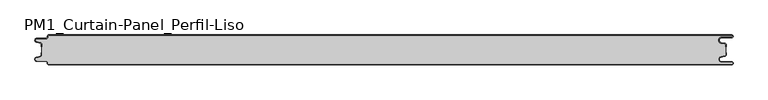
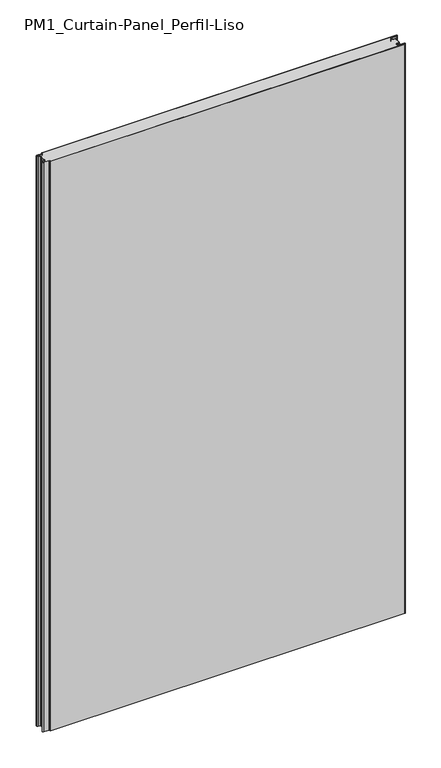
"""IFC4 building model written with IfcOpenShell, lengths in millimetres: plate geometry, PM1_Curtain-Panel_Perfil-Liso : ACH_PM1_Panel-Acústico-Sectorización_50M."""

from ifc_helpers import new_model, si_unit, point, frame, frame_2d, origin, origin_with_axes, place, context, project, spatial, polyline, circle_curve, trimmed, segment, composite_curve, outline, extrude, source, transform, mapped, element, save
from ifc_brep_helpers import plane_surface, cylinder_surface, revolved_surface, advanced_brep


def pm1_curtain_panel_perfil_liso_4c73c2bf(model_context):
    return source(origin(), model_context, "Body", "SolidModel", [
        advanced_brep(
        [(583.1, 0.0, 1945.7507136), (-562.4, 0.0, 1945.7507136), (-564.4, -2.0, 1945.7507136), (-564.4, -3.4, 1945.7507136), (-566.4, -5.4, 1945.7507136), (-581.9, -5.4, 1945.7507136), (-582.7098239, -12.5077322, 1945.7507136), (-576.5500979, -13.929817, 1945.7507136), (-575.0, -15.878557, 1945.7507136), (-575.0, -20.0, 1945.7507136), (-574.2, -20.0, 1945.7507136), (-574.2, -15.878557, 1945.7507136), (-576.370137, -13.1503208, 1945.7507136), (-582.529863, -11.728236, 1945.7507136), (-581.9, -6.2, 1945.7507136), (-566.4, -6.2, 1945.7507136), (-563.6, -3.4, 1945.7507136), (-563.6, -2.0, 1945.7507136), (-562.4, -0.8, 1945.7507136), (583.1, -0.8, 1945.7507136), (583.1, -4.2, 1945.7507136), (566.1, -4.2, 1945.7507136), (565.266489, -13.7270773, 1945.7507136), (571.7125666, -14.8636942, 1945.7507136), (573.2, -16.636348, 1945.7507136), (573.2, -20.0, 1945.7507136), (574.0, -20.0, 1945.7507136), (574.0, -16.636348, 1945.7507136), (571.8514851, -14.0758478, 1945.7507136), (565.4054075, -12.9392309, 1945.7507136), (566.1, -5.0, 1945.7507136), (583.1, -5.0, 1945.7507136), (585.6, -2.5, 1945.7507136), (-562.4, 0.0, 0.0), (583.1, 0.0, 0.0), (585.6, -2.5, 0.0), (583.1, -5.0, 0.0), (566.1, -5.0, 0.0), (565.4054075, -12.939231, 0.0), (571.8514851, -14.075848, 0.0), (574.0, -16.636348, 0.0), (574.0, -20.0, 0.0), (573.2, -20.0, 0.0), (573.2, -16.636348, 0.0), (571.7125666, -14.863694, 0.0), (565.266489, -13.7270771, 0.0), (566.1, -4.2, 0.0), (583.1, -4.2, 0.0), (583.1, -0.8, 0.0), (-562.4, -0.8, 0.0), (-563.6, -2.0, 0.0), (-563.6, -3.4, 0.0), (-566.4, -6.2, 0.0), (-581.9, -6.2, 0.0), (-582.529863, -11.7282362, 0.0), (-576.370137, -13.150321, 0.0), (-574.2, -15.878557, 0.0), (-574.2, -20.0, 0.0), (-575.0, -20.0, 0.0), (-575.0, -15.878557, 0.0), (-576.5500978, -13.9298169, 0.0), (-582.7098239, -12.507732, 0.0), (-581.9, -5.4, 0.0), (-566.4, -5.4, 0.0), (-564.4, -3.4, 0.0), (-564.4, -2.0, 0.0)],
        [
            (0, 1),
            (1, 2, circle_curve(frame((-562.4, -2.0, 1945.7507136), z_axis=(0.0, 0.0, 1.0), x_axis=(1.0, 0.0, 0.0)), 2.0)),
            (2, 3),
            (3, 4, circle_curve(frame((-566.4, -3.4, 1945.7507136), z_axis=(0.0, 0.0, -1.0), x_axis=(1.0, 0.0, 0.0)), 2.0)),
            (4, 5),
            (5, 6, circle_curve(frame((-581.9, -9.0, 1945.7507136), z_axis=(0.0, 0.0, 1.0), x_axis=(1.0, 0.0, 0.0)), 3.6)),
            (6, 7),
            (7, 8, circle_curve(frame((-577.0, -15.878557, 1945.7507136), z_axis=(0.0, 0.0, -1.0), x_axis=(1.0, 0.0, 0.0)), 2.0)),
            (8, 9),
            (9, 10),
            (10, 11),
            (11, 12, circle_curve(frame((-577.0, -15.878557, 1945.7507136), z_axis=(0.0, 0.0, 1.0), x_axis=(1.0, 0.0, 0.0)), 2.8)),
            (12, 13),
            (13, 14, circle_curve(frame((-581.9, -9.0, 1945.7507136), z_axis=(0.0, 0.0, -1.0), x_axis=(1.0, 0.0, 0.0)), 2.8)),
            (14, 15),
            (15, 16, circle_curve(frame((-566.4, -3.4, 1945.7507136), z_axis=(0.0, 0.0, 1.0), x_axis=(1.0, 0.0, 0.0)), 2.8)),
            (16, 17),
            (17, 18, circle_curve(frame((-562.4, -2.0, 1945.7507136), z_axis=(0.0, 0.0, -1.0), x_axis=(1.0, 0.0, 0.0)), 1.2)),
            (18, 19),
            (19, 20, circle_curve(frame((583.1, -2.5, 1945.7507136), z_axis=(0.0, 0.0, -1.0), x_axis=(1.0, 0.0, 0.0)), 1.7)),
            (20, 21),
            (21, 22, circle_curve(frame((566.1, -9.0, 1945.7507136), z_axis=(0.0, 0.0, 1.0), x_axis=(1.0, 0.0, 0.0)), 4.8)),
            (22, 23),
            (23, 24, circle_curve(frame((571.4, -16.636348, 1945.7507136), z_axis=(0.0, 0.0, -1.0), x_axis=(1.0, 0.0, 0.0)), 1.8)),
            (24, 25),
            (25, 26),
            (26, 27),
            (27, 28, circle_curve(frame((571.4, -16.636348, 1945.7507136), z_axis=(0.0, 0.0, 1.0), x_axis=(1.0, 0.0, 0.0)), 2.6)),
            (28, 29),
            (29, 30, circle_curve(frame((566.1, -9.0, 1945.7507136), z_axis=(0.0, 0.0, -1.0), x_axis=(1.0, 0.0, 0.0)), 4.0)),
            (30, 31),
            (31, 32, circle_curve(frame((583.1, -2.5, 1945.7507136), z_axis=(0.0, 0.0, 1.0), x_axis=(1.0, 0.0, 0.0)), 2.5)),
            (32, 0, circle_curve(frame((583.1, -2.5, 1945.7507136), z_axis=(0.0, 0.0, 1.0), x_axis=(1.0, 0.0, 0.0)), 2.5)),
            (33, 34),
            (34, 35, circle_curve(frame((583.1, -2.5, 0.0), z_axis=(0.0, 0.0, -1.0), x_axis=(1.0, 0.0, 0.0)), 2.5)),
            (35, 36, circle_curve(frame((583.1, -2.5, 0.0), z_axis=(0.0, 0.0, -1.0), x_axis=(1.0, 0.0, 0.0)), 2.5)),
            (36, 37),
            (37, 38, circle_curve(frame((566.1, -9.0, 0.0), z_axis=(0.0, 0.0, 1.0), x_axis=(1.0, 0.0, 0.0)), 4.0)),
            (38, 39),
            (39, 40, circle_curve(frame((571.4, -16.636348, 0.0), z_axis=(0.0, 0.0, -1.0), x_axis=(1.0, 0.0, 0.0)), 2.6)),
            (40, 41),
            (41, 42),
            (42, 43),
            (43, 44, circle_curve(frame((571.4, -16.636348, 0.0), z_axis=(0.0, 0.0, 1.0), x_axis=(1.0, 0.0, 0.0)), 1.8)),
            (44, 45),
            (45, 46, circle_curve(frame((566.1, -9.0, 0.0), z_axis=(0.0, 0.0, -1.0), x_axis=(1.0, 0.0, 0.0)), 4.8)),
            (46, 47),
            (47, 48, circle_curve(frame((583.1, -2.5, 0.0), z_axis=(0.0, 0.0, 1.0), x_axis=(1.0, 0.0, 0.0)), 1.7)),
            (48, 49),
            (49, 50, circle_curve(frame((-562.4, -2.0, 0.0), z_axis=(0.0, 0.0, 1.0), x_axis=(1.0, 0.0, 0.0)), 1.2)),
            (50, 51),
            (51, 52, circle_curve(frame((-566.4, -3.4, 0.0), z_axis=(0.0, 0.0, -1.0), x_axis=(1.0, 0.0, 0.0)), 2.8)),
            (52, 53),
            (53, 54, circle_curve(frame((-581.9, -9.0, 0.0), z_axis=(0.0, 0.0, 1.0), x_axis=(1.0, 0.0, 0.0)), 2.8)),
            (54, 55),
            (55, 56, circle_curve(frame((-577.0, -15.878557, 0.0), z_axis=(0.0, 0.0, -1.0), x_axis=(1.0, 0.0, 0.0)), 2.8)),
            (56, 57),
            (57, 58),
            (58, 59),
            (59, 60, circle_curve(frame((-577.0, -15.878557, 0.0), z_axis=(0.0, 0.0, 1.0), x_axis=(1.0, 0.0, 0.0)), 2.0)),
            (60, 61),
            (61, 62, circle_curve(frame((-581.9, -9.0, 0.0), z_axis=(0.0, 0.0, -1.0), x_axis=(1.0, 0.0, 0.0)), 3.6)),
            (62, 63),
            (63, 64, circle_curve(frame((-566.4, -3.4, 0.0), z_axis=(0.0, 0.0, 1.0), x_axis=(1.0, 0.0, 0.0)), 2.0)),
            (64, 65),
            (65, 33, circle_curve(frame((-562.4, -2.0, 0.0), z_axis=(0.0, 0.0, -1.0), x_axis=(1.0, 0.0, 0.0)), 2.0)),
            (1, 33),
            (65, 2),
            (64, 3),
            (63, 4),
            (62, 5),
            (61, 6),
            (60, 7),
            (59, 8),
            (58, 9),
            (57, 10),
            (56, 11),
            (55, 12),
            (54, 13),
            (53, 14),
            (52, 15),
            (51, 16),
            (50, 17),
            (49, 18),
            (48, 19),
            (47, 20),
            (46, 21),
            (45, 22),
            (44, 23),
            (43, 24),
            (42, 25),
            (41, 26),
            (40, 27),
            (39, 28),
            (38, 29),
            (37, 30),
            (36, 31),
            (34, 0),
        ],
        [
            plane_surface(frame((-575.0, 0.0, 1945.7507136), z_axis=(0.0, 0.0, 1.0), x_axis=(0.0, 1.0, 0.0))),
            plane_surface(frame((-575.0, 0.0, 0.0), z_axis=(0.0, 0.0, -1.0), x_axis=(0.0, 1.0, 0.0))),
            cylinder_surface(frame((-562.4, -2.0, 1945.7507136), z_axis=(0.0, 0.0, 1.0), x_axis=(1.0, 0.0, 0.0)), 2.0),
            plane_surface(frame((-564.4, -2.0, 1945.7507136), z_axis=(-1.0, 0.0, 0.0), x_axis=(0.0, 0.0, -1.0))),
            revolved_surface(polyline([(-564.4, -3.4, 0.0), (-564.4, -3.4, 1945.7507136)]), (-566.4, -3.4, 1945.7507136), (0.0, 0.0, -1.0)),
            plane_surface(frame((-566.4, -5.4, 1945.7507136), z_axis=(0.0, 1.0, 0.0), x_axis=(0.0, 0.0, -1.0))),
            cylinder_surface(frame((-581.9, -9.0, 1945.7507136), z_axis=(0.0, 0.0, 1.0), x_axis=(1.0, 0.0, 0.0)), 3.6),
            plane_surface(frame((-582.7098239, -12.507732, 1945.7507136), z_axis=(-0.2249510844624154, -0.9743700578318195, 0.0), x_axis=(0.0, 0.0, -1.0))),
            revolved_surface(polyline([(-575.0, -15.878557, 0.0), (-575.0, -15.878557, 1945.7507136)]), (-577.0, -15.878557, 1945.7507136), (0.0, 0.0, -1.0)),
            plane_surface(frame((-575.0, -15.878557, 1945.7507136), z_axis=(-1.0, 0.0, 0.0), x_axis=(0.0, 0.0, -1.0))),
            plane_surface(frame((-575.0, -20.0, 1945.7507136), z_axis=(0.0, -1.0, 0.0), x_axis=(0.0, 0.0, -1.0))),
            plane_surface(frame((-574.2, -20.0, 1945.7507136), z_axis=(1.0, 0.0, 0.0), x_axis=(0.0, 0.0, -1.0))),
            cylinder_surface(frame((-577.0, -15.878557, 1945.7507136), z_axis=(0.0, 0.0, 1.0), x_axis=(1.0, 0.0, 0.0)), 2.8),
            plane_surface(frame((-576.370137, -13.150321, 1945.7507136), z_axis=(0.22495108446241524, 0.9743700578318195, 0.0), x_axis=(0.0, 0.0, -1.0))),
            revolved_surface(polyline([(-579.1, -9.0, 0.0), (-579.1, -9.0, 1945.7507136)]), (-581.9, -9.0, 1945.7507136), (0.0, 0.0, -1.0)),
            plane_surface(frame((-581.9, -6.2, 1945.7507136), z_axis=(0.0, -1.0, 0.0), x_axis=(0.0, 0.0, -1.0))),
            cylinder_surface(frame((-566.4, -3.4, 1945.7507136), z_axis=(0.0, 0.0, 1.0), x_axis=(1.0, 0.0, 0.0)), 2.8),
            plane_surface(frame((-563.6, -3.4, 1945.7507136), z_axis=(1.0, 0.0, 0.0), x_axis=(0.0, 0.0, -1.0))),
            revolved_surface(polyline([(-561.1999999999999, -2.0, 0.0), (-561.1999999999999, -2.0, 1945.7507136)]), (-562.4, -2.0, 1945.7507136), (0.0, 0.0, -1.0)),
            plane_surface(frame((560.890897, -0.8, 1945.7507136), z_axis=(0.0, -1.0, 0.0), x_axis=(0.0, 0.0, -1.0))),
            revolved_surface(polyline([(584.8000000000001, -2.5, 0.0), (584.8000000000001, -2.5, 1945.7507136)]), (583.1, -2.5, 1945.7507136), (0.0, 0.0, -1.0)),
            plane_surface(frame((583.1, -4.2, 1945.7507136), z_axis=(0.0, 1.0, 0.0), x_axis=(0.0, 0.0, -1.0))),
            cylinder_surface(frame((566.1, -9.0, 1945.7507136), z_axis=(0.0, 0.0, 1.0), x_axis=(1.0, 0.0, 0.0)), 4.8),
            plane_surface(frame((565.266489, -13.7270771, 1945.7507136), z_axis=(-0.1736481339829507, -0.9848077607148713, 0.0), x_axis=(0.0, 0.0, -1.0))),
            revolved_surface(polyline([(573.1999999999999, -16.636348, 0.0), (573.1999999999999, -16.636348, 1945.7507136)]), (571.4, -16.636348, 1945.7507136), (0.0, 0.0, -1.0)),
            plane_surface(frame((573.2, -16.636348, 1945.7507136), z_axis=(-1.0, 0.0, 0.0), x_axis=(0.0, 0.0, -1.0))),
            plane_surface(frame((573.2, -20.0, 1945.7507136), z_axis=(0.0, -1.0, 0.0), x_axis=(0.0, 0.0, -1.0))),
            plane_surface(frame((574.0, -20.0, 1945.7507136), z_axis=(1.0, 0.0, 0.0), x_axis=(0.0, 0.0, -1.0))),
            cylinder_surface(frame((571.4, -16.636348, 1945.7507136), z_axis=(0.0, 0.0, 1.0), x_axis=(1.0, 0.0, 0.0)), 2.6),
            plane_surface(frame((571.8514851, -14.075848, 1945.7507136), z_axis=(0.17364813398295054, 0.9848077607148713, 0.0), x_axis=(0.0, 0.0, -1.0))),
            revolved_surface(polyline([(570.1, -9.0, 0.0), (570.1, -9.0, 1945.7507136)]), (566.1, -9.0, 1945.7507136), (0.0, 0.0, -1.0)),
            plane_surface(frame((566.1, -5.0, 1945.7507136), z_axis=(0.0, -1.0, 0.0), x_axis=(0.0, 0.0, -1.0))),
            cylinder_surface(frame((583.1, -2.5, 1945.7507136), z_axis=(0.0, 0.0, 1.0), x_axis=(1.0, 0.0, 0.0)), 2.5),
            plane_surface(frame((510.5961529, 0.0, 1945.7507136), z_axis=(0.0, 1.0, 0.0), x_axis=(0.0, 0.0, -1.0))),
        ],
        [
            (0, [[1, 2, 3, 4, 5, 6, 7, 8, 9, 10, 11, 12, 13, 14, 15, 16, 17, 18, 19, 20, 21, 22, 23, 24, 25, 26, 27, 28, 29, 30, 31, 32, 33]]),
            (1, [[34, 35, 36, 37, 38, 39, 40, 41, 42, 43, 44, 45, 46, 47, 48, 49, 50, 51, 52, 53, 54, 55, 56, 57, 58, 59, 60, 61, 62, 63, 64, 65, 66]]),
            (2, [[-2, 67, -66, 68]]),
            (3, [[-3, -68, -65, 69]]),
            (4, [[-4, -69, -64, 70]]),
            (5, [[-5, -70, -63, 71]]),
            (6, [[-6, -71, -62, 72]]),
            (7, [[-7, -72, -61, 73]]),
            (8, [[-8, -73, -60, 74]]),
            (9, [[-9, -74, -59, 75]]),
            (10, [[-10, -75, -58, 76]]),
            (11, [[-11, -76, -57, 77]]),
            (12, [[-12, -77, -56, 78]]),
            (13, [[-13, -78, -55, 79]]),
            (14, [[-14, -79, -54, 80]]),
            (15, [[-15, -80, -53, 81]]),
            (16, [[-16, -81, -52, 82]]),
            (17, [[-17, -82, -51, 83]]),
            (18, [[-18, -83, -50, 84]]),
            (19, [[-19, -84, -49, 85]]),
            (20, [[-20, -85, -48, 86]]),
            (21, [[-21, -86, -47, 87]]),
            (22, [[-22, -87, -46, 88]]),
            (23, [[-23, -88, -45, 89]]),
            (24, [[-24, -89, -44, 90]]),
            (25, [[-25, -90, -43, 91]]),
            (26, [[-26, -91, -42, 92]]),
            (27, [[-27, -92, -41, 93]]),
            (28, [[-28, -93, -40, 94]]),
            (29, [[-29, -94, -39, 95]]),
            (30, [[-30, -95, -38, 96]]),
            (31, [[-31, -96, -37, 97]]),
            (32, [[-97, -36, -35, 98, -33, -32]]),
            (33, [[-1, -98, -34, -67]]),
        ],
    ),
        extrude(outline(composite_curve([segment(polyline([(-574.2, -34.1214426), (-574.2, -15.8785573)]), True, "CONTINUOUS"), segment(trimmed(circle_curve(frame_2d((-577.0, -15.8785573)), 2.8), [point((-574.2, -15.8785573))], [point((-576.370137, -13.1503212))], True, "CARTESIAN"), True, "CONTINUOUS"), segment(polyline([(-576.370137, -13.1503212), (-582.5298631, -11.7282362)]), True, "CONTINUOUS"), segment(trimmed(circle_curve(frame_2d((-581.9, -9.0)), 2.8), [point((-582.5298631, -11.7282362))], [point((-581.9, -6.2))], False, "CARTESIAN"), True, "CONTINUOUS"), segment(polyline([(-581.9, -6.2), (-566.4000001, -6.2)]), True, "CONTINUOUS"), segment(trimmed(circle_curve(frame_2d((-566.4000001, -3.4)), 2.8), [point((-566.4000001, -6.2))], [point((-563.6000001, -3.4))], True, "CARTESIAN"), True, "CONTINUOUS"), segment(polyline([(-563.6000001, -3.4), (-563.6000001, -2.0)]), True, "CONTINUOUS"), segment(trimmed(circle_curve(frame_2d((-562.4000001, -2.0)), 1.2), [point((-563.6000001, -2.0))], [point((-562.4000001, -0.8))], False, "CARTESIAN"), True, "CONTINUOUS"), segment(polyline([(-562.4000001, -0.8), (583.1, -0.8)]), True, "CONTINUOUS"), segment(trimmed(circle_curve(frame_2d((583.1, -2.5)), 1.7), [point((583.1, -0.8))], [point((583.1, -4.2))], False, "CARTESIAN"), True, "CONTINUOUS"), segment(polyline([(583.1, -4.2), (566.1, -4.2)]), True, "CONTINUOUS"), segment(trimmed(circle_curve(frame_2d((566.1, -9.0)), 4.8), [point((566.1, -4.2))], [point((565.2664883, -13.7270771))], True, "CARTESIAN"), True, "CONTINUOUS"), segment(polyline([(565.2664883, -13.7270771), (571.7125668, -14.8636953)]), True, "CONTINUOUS"), segment(trimmed(circle_curve(frame_2d((571.4, -16.6363492)), 1.8), [point((571.7125668, -14.8636953))], [point((573.2, -16.6363492))], False, "CARTESIAN"), True, "CONTINUOUS"), segment(polyline([(573.2, -16.6363492), (573.2, -33.3636508)]), True, "CONTINUOUS"), segment(trimmed(circle_curve(frame_2d((571.4, -33.3636508)), 1.8), [point((573.2, -33.3636508))], [point((571.7125668, -35.1363047))], False, "CARTESIAN"), True, "CONTINUOUS"), segment(polyline([(571.7125668, -35.1363047), (565.2664883, -36.2729229)]), True, "CONTINUOUS"), segment(trimmed(circle_curve(frame_2d((566.1, -41.0)), 4.8), [point((565.2664883, -36.2729229))], [point((566.1, -45.8))], True, "CARTESIAN"), True, "CONTINUOUS"), segment(polyline([(566.1, -45.8), (583.1, -45.8)]), True, "CONTINUOUS"), segment(trimmed(circle_curve(frame_2d((583.1, -47.5)), 1.7), [point((583.1, -45.8))], [point((583.1, -49.2))], False, "CARTESIAN"), True, "CONTINUOUS"), segment(polyline([(583.1, -49.2), (-562.4000001, -49.2)]), True, "CONTINUOUS"), segment(trimmed(circle_curve(frame_2d((-562.4000001, -48.0)), 1.2), [point((-562.4000001, -49.2))], [point((-563.6000001, -48.0))], False, "CARTESIAN"), True, "CONTINUOUS"), segment(polyline([(-563.6000001, -48.0), (-563.6000001, -46.6)]), True, "CONTINUOUS"), segment(trimmed(circle_curve(frame_2d((-566.4000001, -46.6)), 2.8), [point((-563.6000001, -46.6))], [point((-566.4000001, -43.8))], True, "CARTESIAN"), True, "CONTINUOUS"), segment(polyline([(-566.4000001, -43.8), (-581.9, -43.8)]), True, "CONTINUOUS"), segment(trimmed(circle_curve(frame_2d((-581.9, -41.0)), 2.8), [point((-581.9, -43.8))], [point((-582.5298631, -38.2717638))], False, "CARTESIAN"), True, "CONTINUOUS"), segment(polyline([(-582.5298631, -38.2717638), (-576.370137, -36.8496788)]), True, "CONTINUOUS"), segment(trimmed(circle_curve(frame_2d((-577.0, -34.1214426)), 2.8), [point((-576.370137, -36.8496788))], [point((-574.2, -34.1214426))], True, "CARTESIAN"), True, "CONTINUOUS")], self_intersect=False)), origin_with_axes(), (0.0, 0.0, 1.0), 1945.7507136),
        advanced_brep(
        [(-562.4, -50.0, 1945.7507136), (583.1, -50.0, 1945.7507136), (585.6, -47.5, 1945.7507136), (583.1, -45.0, 1945.7507136), (566.1, -45.0, 1945.7507136), (565.4054075, -37.060769, 1945.7507136), (571.8514851, -35.924152, 1945.7507136), (574.0, -33.363652, 1945.7507136), (574.0, -30.0, 1945.7507136), (573.2, -30.0, 1945.7507136), (573.2, -33.363652, 1945.7507136), (571.7125666, -35.136306, 1945.7507136), (565.266489, -36.2729229, 1945.7507136), (566.1, -45.8, 1945.7507136), (583.1, -45.8, 1945.7507136), (583.1, -49.2, 1945.7507136), (-562.4, -49.2, 1945.7507136), (-563.6, -48.0, 1945.7507136), (-563.6, -46.6, 1945.7507136), (-566.4, -43.8, 1945.7507136), (-581.9, -43.8, 1945.7507136), (-582.529863, -38.2717638, 1945.7507136), (-576.370137, -36.849679, 1945.7507136), (-574.2, -34.121443, 1945.7507136), (-574.2, -30.0, 1945.7507136), (-575.0, -30.0, 1945.7507136), (-575.0, -34.121443, 1945.7507136), (-576.5500978, -36.0701831, 1945.7507136), (-582.7098239, -37.492268, 1945.7507136), (-581.9, -44.6, 1945.7507136), (-566.4, -44.6, 1945.7507136), (-564.4, -46.6, 1945.7507136), (-564.4, -48.0, 1945.7507136), (583.1, -50.0, 0.0), (-562.4, -50.0, 0.0), (-564.4, -48.0, 0.0), (-564.4, -46.6, 0.0), (-566.4, -44.6, 0.0), (-581.9, -44.6, 0.0), (-582.7098239, -37.4922678, 0.0), (-576.5500979, -36.070183, 0.0), (-575.0, -34.121443, 0.0), (-575.0, -30.0, 0.0), (-574.2, -30.0, 0.0), (-574.2, -34.121443, 0.0), (-576.370137, -36.8496792, 0.0), (-582.529863, -38.271764, 0.0), (-581.9, -43.8, 0.0), (-566.4, -43.8, 0.0), (-563.6, -46.6, 0.0), (-563.6, -48.0, 0.0), (-562.4, -49.2, 0.0), (583.1, -49.2, 0.0), (583.1, -45.8, 0.0), (566.1, -45.8, 0.0), (565.266489, -36.2729227, 0.0), (571.7125666, -35.1363058, 0.0), (573.2, -33.363652, 0.0), (573.2, -30.0, 0.0), (574.0, -30.0, 0.0), (574.0, -33.363652, 0.0), (571.8514851, -35.9241522, 0.0), (565.4054075, -37.0607691, 0.0), (566.1, -45.0, 0.0), (583.1, -45.0, 0.0), (585.6, -47.5, 0.0)],
        [
            (0, 1),
            (1, 2, circle_curve(frame((583.1, -47.5, 1945.7507136), z_axis=(0.0, 0.0, 1.0), x_axis=(1.0, 0.0, 0.0)), 2.5)),
            (2, 3, circle_curve(frame((583.1, -47.5, 1945.7507136), z_axis=(0.0, 0.0, 1.0), x_axis=(1.0, 0.0, 0.0)), 2.5)),
            (3, 4),
            (4, 5, circle_curve(frame((566.1, -41.0, 1945.7507136), z_axis=(0.0, 0.0, -1.0), x_axis=(1.0, 0.0, 0.0)), 4.0)),
            (5, 6),
            (6, 7, circle_curve(frame((571.4, -33.363652, 1945.7507136), z_axis=(0.0, 0.0, 1.0), x_axis=(1.0, 0.0, 0.0)), 2.6)),
            (7, 8),
            (8, 9),
            (9, 10),
            (10, 11, circle_curve(frame((571.4, -33.363652, 1945.7507136), z_axis=(0.0, 0.0, -1.0), x_axis=(1.0, 0.0, 0.0)), 1.8)),
            (11, 12),
            (12, 13, circle_curve(frame((566.1, -41.0, 1945.7507136), z_axis=(0.0, 0.0, 1.0), x_axis=(1.0, 0.0, 0.0)), 4.8)),
            (13, 14),
            (14, 15, circle_curve(frame((583.1, -47.5, 1945.7507136), z_axis=(0.0, 0.0, -1.0), x_axis=(1.0, 0.0, 0.0)), 1.7)),
            (15, 16),
            (16, 17, circle_curve(frame((-562.4, -48.0, 1945.7507136), z_axis=(0.0, 0.0, -1.0), x_axis=(1.0, 0.0, 0.0)), 1.2)),
            (17, 18),
            (18, 19, circle_curve(frame((-566.4, -46.6, 1945.7507136), z_axis=(0.0, 0.0, 1.0), x_axis=(1.0, 0.0, 0.0)), 2.8)),
            (19, 20),
            (20, 21, circle_curve(frame((-581.9, -41.0, 1945.7507136), z_axis=(0.0, 0.0, -1.0), x_axis=(1.0, 0.0, 0.0)), 2.8)),
            (21, 22),
            (22, 23, circle_curve(frame((-577.0, -34.121443, 1945.7507136), z_axis=(0.0, 0.0, 1.0), x_axis=(1.0, 0.0, 0.0)), 2.8)),
            (23, 24),
            (24, 25),
            (25, 26),
            (26, 27, circle_curve(frame((-577.0, -34.121443, 1945.7507136), z_axis=(0.0, 0.0, -1.0), x_axis=(1.0, 0.0, 0.0)), 2.0)),
            (27, 28),
            (28, 29, circle_curve(frame((-581.9, -41.0, 1945.7507136), z_axis=(0.0, 0.0, 1.0), x_axis=(1.0, 0.0, 0.0)), 3.6)),
            (29, 30),
            (30, 31, circle_curve(frame((-566.4, -46.6, 1945.7507136), z_axis=(0.0, 0.0, -1.0), x_axis=(1.0, 0.0, 0.0)), 2.0)),
            (31, 32),
            (32, 0, circle_curve(frame((-562.4, -48.0, 1945.7507136), z_axis=(0.0, 0.0, 1.0), x_axis=(1.0, 0.0, 0.0)), 2.0)),
            (33, 34),
            (34, 35, circle_curve(frame((-562.4, -48.0, 0.0), z_axis=(0.0, 0.0, -1.0), x_axis=(1.0, 0.0, 0.0)), 2.0)),
            (35, 36),
            (36, 37, circle_curve(frame((-566.4, -46.6, 0.0), z_axis=(0.0, 0.0, 1.0), x_axis=(1.0, 0.0, 0.0)), 2.0)),
            (37, 38),
            (38, 39, circle_curve(frame((-581.9, -41.0, 0.0), z_axis=(0.0, 0.0, -1.0), x_axis=(1.0, 0.0, 0.0)), 3.6)),
            (39, 40),
            (40, 41, circle_curve(frame((-577.0, -34.121443, 0.0), z_axis=(0.0, 0.0, 1.0), x_axis=(1.0, 0.0, 0.0)), 2.0)),
            (41, 42),
            (42, 43),
            (43, 44),
            (44, 45, circle_curve(frame((-577.0, -34.121443, 0.0), z_axis=(0.0, 0.0, -1.0), x_axis=(1.0, 0.0, 0.0)), 2.8)),
            (45, 46),
            (46, 47, circle_curve(frame((-581.9, -41.0, 0.0), z_axis=(0.0, 0.0, 1.0), x_axis=(1.0, 0.0, 0.0)), 2.8)),
            (47, 48),
            (48, 49, circle_curve(frame((-566.4, -46.6, 0.0), z_axis=(0.0, 0.0, -1.0), x_axis=(1.0, 0.0, 0.0)), 2.8)),
            (49, 50),
            (50, 51, circle_curve(frame((-562.4, -48.0, 0.0), z_axis=(0.0, 0.0, 1.0), x_axis=(1.0, 0.0, 0.0)), 1.2)),
            (51, 52),
            (52, 53, circle_curve(frame((583.1, -47.5, 0.0), z_axis=(0.0, 0.0, 1.0), x_axis=(1.0, 0.0, 0.0)), 1.7)),
            (53, 54),
            (54, 55, circle_curve(frame((566.1, -41.0, 0.0), z_axis=(0.0, 0.0, -1.0), x_axis=(1.0, 0.0, 0.0)), 4.8)),
            (55, 56),
            (56, 57, circle_curve(frame((571.4, -33.363652, 0.0), z_axis=(0.0, 0.0, 1.0), x_axis=(1.0, 0.0, 0.0)), 1.8)),
            (57, 58),
            (58, 59),
            (59, 60),
            (60, 61, circle_curve(frame((571.4, -33.363652, 0.0), z_axis=(0.0, 0.0, -1.0), x_axis=(1.0, 0.0, 0.0)), 2.6)),
            (61, 62),
            (62, 63, circle_curve(frame((566.1, -41.0, 0.0), z_axis=(0.0, 0.0, 1.0), x_axis=(1.0, 0.0, 0.0)), 4.0)),
            (63, 64),
            (64, 65, circle_curve(frame((583.1, -47.5, 0.0), z_axis=(0.0, 0.0, -1.0), x_axis=(1.0, 0.0, 0.0)), 2.5)),
            (65, 33, circle_curve(frame((583.1, -47.5, 0.0), z_axis=(0.0, 0.0, -1.0), x_axis=(1.0, 0.0, 0.0)), 2.5)),
            (0, 34),
            (33, 1),
            (64, 3),
            (63, 4),
            (62, 5),
            (61, 6),
            (60, 7),
            (59, 8),
            (58, 9),
            (57, 10),
            (56, 11),
            (55, 12),
            (54, 13),
            (53, 14),
            (52, 15),
            (51, 16),
            (50, 17),
            (49, 18),
            (48, 19),
            (47, 20),
            (46, 21),
            (45, 22),
            (44, 23),
            (43, 24),
            (42, 25),
            (41, 26),
            (40, 27),
            (39, 28),
            (38, 29),
            (37, 30),
            (36, 31),
            (35, 32),
        ],
        [
            plane_surface(frame((-575.0, -50.0, 1945.7507136), z_axis=(0.0, 0.0, 1.0), x_axis=(0.0, 1.0, 0.0))),
            plane_surface(frame((-575.0, -50.0, 0.0), z_axis=(0.0, 0.0, -1.0), x_axis=(0.0, 1.0, 0.0))),
            plane_surface(frame((560.890897, -50.0, 1945.7507136), z_axis=(0.0, -1.0, 0.0), x_axis=(0.0, 0.0, -1.0))),
            cylinder_surface(frame((583.1, -47.5, 1945.7507136), z_axis=(0.0, 0.0, 1.0), x_axis=(1.0, 0.0, 0.0)), 2.5),
            plane_surface(frame((583.1, -45.0, 1945.7507136), z_axis=(0.0, 1.0, 0.0), x_axis=(0.0, 0.0, -1.0))),
            revolved_surface(polyline([(570.1, -41.0, 0.0), (570.1, -41.0, 1945.7507136)]), (566.1, -41.0, 1945.7507136), (0.0, 0.0, -1.0)),
            plane_surface(frame((565.4054075, -37.0607691, 1945.7507136), z_axis=(0.17364813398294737, -0.9848077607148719, 0.0), x_axis=(0.0, 0.0, -1.0))),
            cylinder_surface(frame((571.4, -33.363652, 1945.7507136), z_axis=(0.0, 0.0, 1.0), x_axis=(1.0, 0.0, 0.0)), 2.6),
            plane_surface(frame((574.0, -33.363652, 1945.7507136), z_axis=(1.0, 0.0, 0.0), x_axis=(0.0, 0.0, -1.0))),
            plane_surface(frame((574.0, -30.0, 1945.7507136), z_axis=(0.0, 1.0, 0.0), x_axis=(0.0, 0.0, -1.0))),
            plane_surface(frame((573.2, -30.0, 1945.7507136), z_axis=(-1.0, 0.0, 0.0), x_axis=(0.0, 0.0, -1.0))),
            revolved_surface(polyline([(573.1999999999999, -33.363652, 0.0), (573.1999999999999, -33.363652, 1945.7507136)]), (571.4, -33.363652, 1945.7507136), (0.0, 0.0, -1.0)),
            plane_surface(frame((571.7125666, -35.1363058, 1945.7507136), z_axis=(-0.17364813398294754, 0.9848077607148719, 0.0), x_axis=(0.0, 0.0, -1.0))),
            cylinder_surface(frame((566.1, -41.0, 1945.7507136), z_axis=(0.0, 0.0, 1.0), x_axis=(1.0, 0.0, 0.0)), 4.8),
            plane_surface(frame((566.1, -45.8, 1945.7507136), z_axis=(0.0, -1.0, 0.0), x_axis=(0.0, 0.0, -1.0))),
            revolved_surface(polyline([(584.8000000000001, -47.5, 0.0), (584.8000000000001, -47.5, 1945.7507136)]), (583.1, -47.5, 1945.7507136), (0.0, 0.0, -1.0)),
            plane_surface(frame((510.8105122, -49.2, 1945.7507136), z_axis=(0.0, 1.0, 0.0), x_axis=(0.0, 0.0, -1.0))),
            revolved_surface(polyline([(-561.1999999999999, -48.0, 0.0), (-561.1999999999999, -48.0, 1945.7507136)]), (-562.4, -48.0, 1945.7507136), (0.0, 0.0, -1.0)),
            plane_surface(frame((-563.6, -48.0, 1945.7507136), z_axis=(1.0, 0.0, 0.0), x_axis=(0.0, 0.0, -1.0))),
            cylinder_surface(frame((-566.4, -46.6, 1945.7507136), z_axis=(0.0, 0.0, 1.0), x_axis=(1.0, 0.0, 0.0)), 2.8),
            plane_surface(frame((-566.4, -43.8, 1945.7507136), z_axis=(0.0, 1.0, 0.0), x_axis=(0.0, 0.0, -1.0))),
            revolved_surface(polyline([(-579.1, -41.0, 0.0), (-579.1, -41.0, 1945.7507136)]), (-581.9, -41.0, 1945.7507136), (0.0, 0.0, -1.0)),
            plane_surface(frame((-582.529863, -38.271764, 1945.7507136), z_axis=(0.2249510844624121, -0.9743700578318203, 0.0), x_axis=(0.0, 0.0, -1.0))),
            cylinder_surface(frame((-577.0, -34.121443, 1945.7507136), z_axis=(0.0, 0.0, 1.0), x_axis=(1.0, 0.0, 0.0)), 2.8),
            plane_surface(frame((-574.2, -34.121443, 1945.7507136), z_axis=(1.0, 0.0, 0.0), x_axis=(0.0, 0.0, -1.0))),
            plane_surface(frame((-574.2, -30.0, 1945.7507136), z_axis=(0.0, 1.0, 0.0), x_axis=(0.0, 0.0, -1.0))),
            plane_surface(frame((-575.0, -30.0, 1945.7507136), z_axis=(-1.0, 0.0, 0.0), x_axis=(0.0, 0.0, -1.0))),
            revolved_surface(polyline([(-575.0, -34.121443, 0.0), (-575.0, -34.121443, 1945.7507136)]), (-577.0, -34.121443, 1945.7507136), (0.0, 0.0, -1.0)),
            plane_surface(frame((-576.5500979, -36.070183, 1945.7507136), z_axis=(-0.22495108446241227, 0.9743700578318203, 0.0), x_axis=(0.0, 0.0, -1.0))),
            cylinder_surface(frame((-581.9, -41.0, 1945.7507136), z_axis=(0.0, 0.0, 1.0), x_axis=(1.0, 0.0, 0.0)), 3.6),
            plane_surface(frame((-581.9, -44.6, 1945.7507136), z_axis=(0.0, -1.0, 0.0), x_axis=(0.0, 0.0, -1.0))),
            revolved_surface(polyline([(-564.4, -46.6, 0.0), (-564.4, -46.6, 1945.7507136)]), (-566.4, -46.6, 1945.7507136), (0.0, 0.0, -1.0)),
            plane_surface(frame((-564.4, -46.6, 1945.7507136), z_axis=(-1.0, 0.0, 0.0), x_axis=(0.0, 0.0, -1.0))),
            cylinder_surface(frame((-562.4, -48.0, 1945.7507136), z_axis=(0.0, 0.0, 1.0), x_axis=(1.0, 0.0, 0.0)), 2.0),
        ],
        [
            (0, [[1, 2, 3, 4, 5, 6, 7, 8, 9, 10, 11, 12, 13, 14, 15, 16, 17, 18, 19, 20, 21, 22, 23, 24, 25, 26, 27, 28, 29, 30, 31, 32, 33]]),
            (1, [[34, 35, 36, 37, 38, 39, 40, 41, 42, 43, 44, 45, 46, 47, 48, 49, 50, 51, 52, 53, 54, 55, 56, 57, 58, 59, 60, 61, 62, 63, 64, 65, 66]]),
            (2, [[-1, 67, -34, 68]]),
            (3, [[-68, -66, -65, 69, -3, -2]]),
            (4, [[-4, -69, -64, 70]]),
            (5, [[-5, -70, -63, 71]]),
            (6, [[-6, -71, -62, 72]]),
            (7, [[-7, -72, -61, 73]]),
            (8, [[-8, -73, -60, 74]]),
            (9, [[-9, -74, -59, 75]]),
            (10, [[-10, -75, -58, 76]]),
            (11, [[-11, -76, -57, 77]]),
            (12, [[-12, -77, -56, 78]]),
            (13, [[-13, -78, -55, 79]]),
            (14, [[-14, -79, -54, 80]]),
            (15, [[-15, -80, -53, 81]]),
            (16, [[-16, -81, -52, 82]]),
            (17, [[-17, -82, -51, 83]]),
            (18, [[-18, -83, -50, 84]]),
            (19, [[-19, -84, -49, 85]]),
            (20, [[-20, -85, -48, 86]]),
            (21, [[-21, -86, -47, 87]]),
            (22, [[-22, -87, -46, 88]]),
            (23, [[-23, -88, -45, 89]]),
            (24, [[-24, -89, -44, 90]]),
            (25, [[-25, -90, -43, 91]]),
            (26, [[-26, -91, -42, 92]]),
            (27, [[-27, -92, -41, 93]]),
            (28, [[-28, -93, -40, 94]]),
            (29, [[-29, -94, -39, 95]]),
            (30, [[-30, -95, -38, 96]]),
            (31, [[-31, -96, -37, 97]]),
            (32, [[-32, -97, -36, 98]]),
            (33, [[-33, -98, -35, -67]]),
        ],
    ),
    ])


if __name__ == "__main__":
    model = new_model("IFC4")
    model_context = context("Model", 3, world=origin())
    ifc_project = project(units=[si_unit("LENGTHUNIT", "METRE", prefix="MILLI")], contexts=[model_context])
    site = spatial("IfcSite", under=ifc_project)
    building = spatial("IfcBuilding", under=site)
    placement = place(None, origin())
    pm1_curtain_panel_perfil_liso_shape = pm1_curtain_panel_perfil_liso_4c73c2bf(model_context)
    element("IfcPlate", 1, ObjectType="PM1_Curtain-Panel_Perfil-Liso : ACH_PM1_Panel-Acústico-Sectorización_50M", at=placement, inside=building, context=model_context, shape_type="MappedRepresentation", body=[
        mapped(pm1_curtain_panel_perfil_liso_shape, transform((0.0, 0.0, 0.0), x_axis=(1.0, 0.0, 0.0), y_axis=(0.0, 1.0, 0.0), z_axis=(0.0, 0.0, 1.0))),
    ])
    save(model, "model.ifc")
